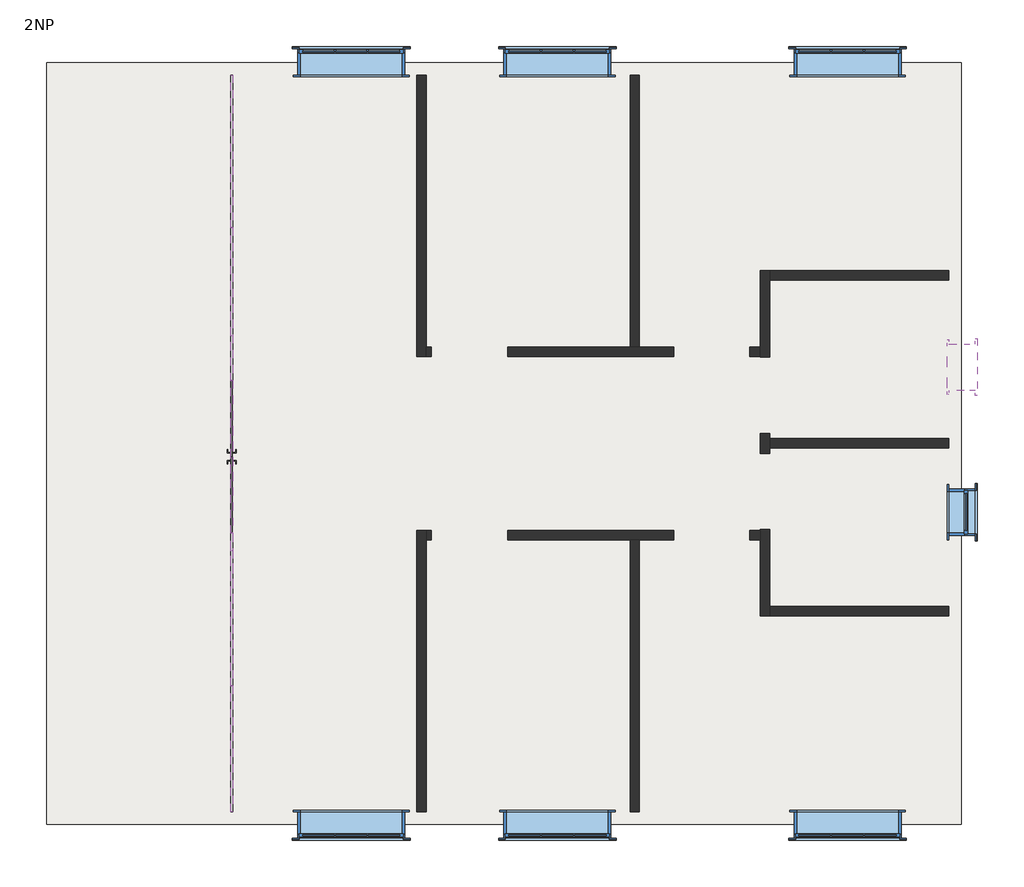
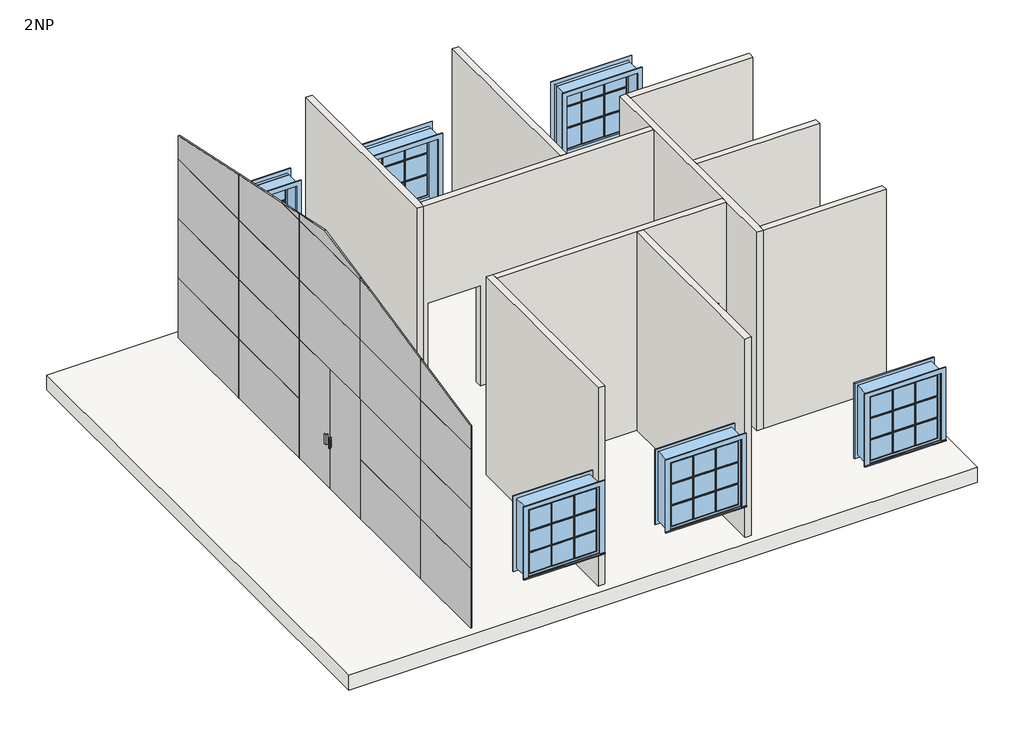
# One storey, incomplete: 22 plates, 10 walls, 8 windows, 1 slab.
"""IFC4 building model written with IfcOpenShell, lengths in millimetres."""

from ifc_helpers import new_model, si_unit, frame, origin, place, context, project, spatial, polyline, outline, extrude, faceted_brep, transform, mapped, element, save
from components import m_curtain_wall_dbl_glass_m_curtain_wall_dbl_glass_c5b9b46c, system_panel_glazed_d184565c, system_panel_glazed_a29ab13c, system_panel_glazed_8885a126, system_panel_glazed_2cf4602f, system_panel_glazed_9fd06ce3, system_panel_glazed_8aa4ee30, system_panel_glazed_09b1b49a, system_panel_glazed_e96e9fbf, system_panel_glazed_1f278f70, m_casement_3x3_with_trim_1100_x_1400_df31fcd5, m_casement_with_trim_0610_x_0610mm_632b6733

model = new_model("IFC4")

# Units and contexts
model_context = context("Model", 3, world=origin())
ifc_project = project(units=[si_unit("LENGTHUNIT", "METRE", prefix="MILLI")], contexts=[model_context])

# Site, building, storey
site = spatial("IfcSite", under=ifc_project)
building = spatial("IfcBuilding", under=site)
storey = spatial("IfcBuildingStorey", under=building, Name="2NP", Elevation=4000.0)

# Plates
placement = place(None, origin())
m_curtain_wall_dbl_glass_m_curtain_wall_dbl_glass_shape = m_curtain_wall_dbl_glass_m_curtain_wall_dbl_glass_c5b9b46c(model_context)
element("IfcPlate", 1, ObjectType="M_Curtain Wall Dbl Glass : M_Curtain Wall Dbl Glass", at=placement, inside=storey, context=model_context, shape_type="MappedRepresentation", body=[
    mapped(m_curtain_wall_dbl_glass_m_curtain_wall_dbl_glass_shape, transform((31926.5997597, 13660.2898989, 4000.0), x_axis=(0.0, -1.0, 0.0), y_axis=(1.0, 0.0, 0.0), z_axis=(0.0, 0.0, 1.0))),
])
system_panel_glazed_shape = system_panel_glazed_d184565c(model_context)
element("IfcPlate", 2, ObjectType="System Panel : Glazed", at=placement, inside=storey, context=model_context, shape_type="MappedRepresentation", body=[
    mapped(system_panel_glazed_shape, transform((31926.5997597, 17660.2898989, 4000.0), x_axis=(0.0, -1.0, 0.0), y_axis=(1.0, 0.0, 0.0), z_axis=(0.0, 0.0, 1.0))),
])
element("IfcPlate", 3, ObjectType="System Panel : Glazed", at=placement, inside=storey, context=model_context, shape_type="MappedRepresentation", body=[
    mapped(system_panel_glazed_shape, transform((31926.5997597, 15660.2898989, 4000.0), x_axis=(0.0, -1.0, 0.0), y_axis=(1.0, 0.0, 0.0), z_axis=(0.0, 0.0, 1.0))),
])
element("IfcPlate", 4, ObjectType="System Panel : Glazed", at=placement, inside=storey, context=model_context, shape_type="MappedRepresentation", body=[
    mapped(system_panel_glazed_shape, transform((31926.5997597, 11660.2898989, 4000.0), x_axis=(0.0, -1.0, 0.0), y_axis=(1.0, 0.0, 0.0), z_axis=(0.0, 0.0, 1.0))),
])
element("IfcPlate", 5, ObjectType="System Panel : Glazed", at=placement, inside=storey, context=model_context, shape_type="MappedRepresentation", body=[
    mapped(system_panel_glazed_shape, transform((31926.5997597, 17660.2898989, 5200.0), x_axis=(0.0, -1.0, 0.0), y_axis=(1.0, 0.0, 0.0), z_axis=(0.0, 0.0, 1.0))),
])
element("IfcPlate", 6, ObjectType="System Panel : Glazed", at=placement, inside=storey, context=model_context, shape_type="MappedRepresentation", body=[
    mapped(system_panel_glazed_shape, transform((31926.5997597, 15660.2898989, 5200.0), x_axis=(0.0, -1.0, 0.0), y_axis=(1.0, 0.0, 0.0), z_axis=(0.0, 0.0, 1.0))),
])
element("IfcPlate", 7, ObjectType="System Panel : Glazed", at=placement, inside=storey, context=model_context, shape_type="MappedRepresentation", body=[
    mapped(system_panel_glazed_shape, transform((31926.5997597, 11660.2898989, 5200.0), x_axis=(0.0, -1.0, 0.0), y_axis=(1.0, 0.0, 0.0), z_axis=(0.0, 0.0, 1.0))),
])
element("IfcPlate", 8, ObjectType="System Panel : Glazed", at=placement, inside=storey, context=model_context, shape_type="MappedRepresentation", body=[
    mapped(system_panel_glazed_shape, transform((31926.5997597, 17660.2898989, 6400.0), x_axis=(0.0, -1.0, 0.0), y_axis=(1.0, 0.0, 0.0), z_axis=(0.0, 0.0, 1.0))),
])
element("IfcPlate", 9, ObjectType="System Panel : Glazed", at=placement, inside=storey, context=model_context, shape_type="MappedRepresentation", body=[
    mapped(system_panel_glazed_shape, transform((31926.5997597, 15660.2898989, 6400.0), x_axis=(0.0, -1.0, 0.0), y_axis=(1.0, 0.0, 0.0), z_axis=(0.0, 0.0, 1.0))),
])
element("IfcPlate", 10, ObjectType="System Panel : Glazed", at=placement, inside=storey, context=model_context, shape_type="MappedRepresentation", body=[
    mapped(system_panel_glazed_shape, transform((31926.5997597, 13660.2898989, 6400.0), x_axis=(0.0, -1.0, 0.0), y_axis=(1.0, 0.0, 0.0), z_axis=(0.0, 0.0, 1.0))),
])
element("IfcPlate", 11, ObjectType="System Panel : Glazed", at=placement, inside=storey, context=model_context, shape_type="MappedRepresentation", body=[
    mapped(system_panel_glazed_shape, transform((31926.5997597, 11660.2898989, 6400.0), x_axis=(0.0, -1.0, 0.0), y_axis=(1.0, 0.0, 0.0), z_axis=(0.0, 0.0, 1.0))),
])
element("IfcPlate", 12, ObjectType="System Panel : Glazed", at=placement, inside=storey, context=model_context, shape_type="MappedRepresentation", body=[
    mapped(system_panel_glazed_shape, transform((31926.5997597, 13660.2898989, 7600.0), x_axis=(0.0, -1.0, 0.0), y_axis=(1.0, 0.0, 0.0), z_axis=(0.0, 0.0, 1.0))),
])
system_panel_glazed_2_shape = system_panel_glazed_a29ab13c(model_context)
element("IfcPlate", 13, ObjectType="System Panel : Glazed", at=placement, inside=storey, context=model_context, shape_type="MappedRepresentation", body=[
    mapped(system_panel_glazed_2_shape, transform((31926.5997597, 9835.2898989, 4000.0), x_axis=(0.0, -1.0, 0.0), y_axis=(1.0, 0.0, 0.0), z_axis=(0.0, 0.0, 1.0))),
])
element("IfcPlate", 14, ObjectType="System Panel : Glazed", at=placement, inside=storey, context=model_context, shape_type="MappedRepresentation", body=[
    mapped(system_panel_glazed_2_shape, transform((31926.5997597, 9835.2898989, 5200.0), x_axis=(0.0, -1.0, 0.0), y_axis=(1.0, 0.0, 0.0), z_axis=(0.0, 0.0, 1.0))),
])
element("IfcPlate", 15, ObjectType="System Panel : Glazed", at=placement, inside=storey, context=model_context, shape_type="MappedRepresentation", body=[
    mapped(system_panel_glazed_2_shape, transform((31926.5997597, 9835.2898989, 6400.0), x_axis=(0.0, -1.0, 0.0), y_axis=(1.0, 0.0, 0.0), z_axis=(0.0, 0.0, 1.0))),
])
system_panel_glazed_3_shape = system_panel_glazed_8885a126(model_context)
element("IfcPlate", 16, ObjectType="System Panel : Glazed", at=placement, inside=storey, context=model_context, shape_type="MappedRepresentation", body=[
    mapped(system_panel_glazed_3_shape, transform((31926.5997597, 17660.2898989, 7600.0), x_axis=(0.0, -1.0, 0.0), y_axis=(1.0, 0.0, 0.0), z_axis=(0.0, 0.0, 1.0))),
])
system_panel_glazed_4_shape = system_panel_glazed_2cf4602f(model_context)
element("IfcPlate", 17, ObjectType="System Panel : Glazed", at=placement, inside=storey, context=model_context, shape_type="MappedRepresentation", body=[
    mapped(system_panel_glazed_4_shape, transform((31926.5997597, 15660.2898989, 7600.0), x_axis=(0.0, -1.0, 0.0), y_axis=(1.0, 0.0, 0.0), z_axis=(0.0, 0.0, 1.0))),
])
system_panel_glazed_5_shape = system_panel_glazed_9fd06ce3(model_context)
element("IfcPlate", 18, ObjectType="System Panel : Glazed", at=placement, inside=storey, context=model_context, shape_type="MappedRepresentation", body=[
    mapped(system_panel_glazed_5_shape, transform((31926.5997597, 11660.2898989, 7600.0), x_axis=(0.0, -1.0, 0.0), y_axis=(1.0, 0.0, 0.0), z_axis=(0.0, 0.0, 1.0))),
])
system_panel_glazed_6_shape = system_panel_glazed_8aa4ee30(model_context)
element("IfcPlate", 19, ObjectType="System Panel : Glazed", at=placement, inside=storey, context=model_context, shape_type="MappedRepresentation", body=[
    mapped(system_panel_glazed_6_shape, transform((31926.5997597, 9835.2898989, 7600.0), x_axis=(0.0, -1.0, 0.0), y_axis=(1.0, 0.0, 0.0), z_axis=(0.0, 0.0, 1.0))),
])
system_panel_glazed_7_shape = system_panel_glazed_09b1b49a(model_context)
element("IfcPlate", 20, ObjectType="System Panel : Glazed", at=placement, inside=storey, context=model_context, shape_type="MappedRepresentation", body=[
    mapped(system_panel_glazed_7_shape, transform((31926.5997597, 14953.4378551, 8800.0), x_axis=(0.0, -1.0, 0.0), y_axis=(1.0, 0.0, 0.0), z_axis=(0.0, 0.0, 1.0))),
])
system_panel_glazed_8_shape = system_panel_glazed_e96e9fbf(model_context)
element("IfcPlate", 21, ObjectType="System Panel : Glazed", at=placement, inside=storey, context=model_context, shape_type="MappedRepresentation", body=[
    mapped(system_panel_glazed_8_shape, transform((31926.5997597, 13660.2898989, 8800.0), x_axis=(0.0, -1.0, 0.0), y_axis=(1.0, 0.0, 0.0), z_axis=(0.0, 0.0, 1.0))),
])
system_panel_glazed_9_shape = system_panel_glazed_1f278f70(model_context)
element("IfcPlate", 22, ObjectType="System Panel : Glazed", at=placement, inside=storey, context=model_context, shape_type="MappedRepresentation", body=[
    mapped(system_panel_glazed_9_shape, transform((31926.5997597, 12542.1419427, 8800.0), x_axis=(0.0, -1.0, 0.0), y_axis=(1.0, 0.0, 0.0), z_axis=(0.0, 0.0, 1.0))),
])

# Slab
element("IfcSlab", 23, ObjectType="Generic 300mm", at=placement, inside=storey, context=model_context, shape_type="SweptSolid", body=[
    extrude(outline(polyline([(29461.5997597, 18825.2898989), (41441.5997597, 18825.2898989), (41441.5997597, 8845.2898989), (29461.5997597, 8845.2898989), (29461.5997597, 18825.2898989)])), frame((0.0, 0.0, 3700.0), z_axis=(0.0, 0.0, 1.0), x_axis=(1.0, 0.0, 0.0)), (0.0, 0.0, 1.0), 300.0),
])

# Walls
element("IfcWall", 24, ObjectType="Interior - Blockwork 100", at=placement, inside=storey, context=model_context, shape_type="Brep", body=[
    faceted_brep([(34431.355701, 9010.2898989, 4000.0), (34431.355701, 12573.2898989, 4000.0), (34431.355701, 12697.2898989, 4000.0), (34431.355701, 12697.2898989, 8000.0), (34431.355701, 12573.2898989, 8000.0), (34431.355701, 9010.2898989, 8000.0), (34307.355701, 9010.2898989, 4000.0), (34307.355701, 9010.2898989, 8000.0), (34307.355701, 12697.2898989, 8000.0), (34307.355701, 12697.2898989, 4000.0)], [[[0, 1, 2, 3, 4, 5]], [[6, 7, 8, 9]], [[2, 1, 0, 6, 9]], [[5, 4, 3, 8, 7]], [[0, 5, 7, 6]], [[3, 2, 9, 8]]]),
])
element("IfcWall", 25, ObjectType="Interior - Blockwork 100", at=placement, inside=storey, context=model_context, shape_type="Brep", body=[
    faceted_brep([(35501.355701, 14973.2898989, 6020.0), (35501.355701, 14973.2898989, 4000.0), (37673.0559814, 14973.2898989, 4000.0), (37673.0559814, 14973.2898989, 6020.0), (38673.0559814, 14973.2898989, 6020.0), (38673.0559814, 14973.2898989, 4000.0), (38811.0559814, 14973.2898989, 4000.0), (38811.0559814, 14973.2898989, 8000.0), (34431.355701, 14973.2898989, 8000.0), (34431.355701, 14973.2898989, 4000.0), (34501.355701, 14973.2898989, 4000.0), (34501.355701, 14973.2898989, 6020.0), (37673.0559814, 15097.2898989, 4000.0), (37226.5997597, 15097.2898989, 4000.0), (37102.5997597, 15097.2898989, 4000.0), (35501.355701, 15097.2898989, 4000.0), (35501.355701, 15097.2898989, 6020.0), (34501.355701, 15097.2898989, 6020.0), (34501.355701, 15097.2898989, 4000.0), (34431.355701, 15097.2898989, 4000.0), (34431.355701, 15097.2898989, 8000.0), (37102.5997597, 15097.2898989, 8000.0), (37226.5997597, 15097.2898989, 8000.0), (38811.0559814, 15097.2898989, 8000.0), (38811.0559814, 15097.2898989, 4000.0), (38673.0559814, 15097.2898989, 4000.0), (38673.0559814, 15097.2898989, 6020.0), (37673.0559814, 15097.2898989, 6020.0)], [[[0, 1, 2, 3, 4, 5, 6, 7, 8, 9, 10, 11]], [[12, 13, 14, 15, 16, 17, 18, 19, 20, 21, 22, 23, 24, 25, 26, 27]], [[2, 1, 15, 14, 13, 12]], [[24, 6, 5, 25]], [[10, 9, 19, 18]], [[8, 7, 23, 22, 21, 20]], [[9, 8, 20, 19]], [[7, 6, 24, 23]], [[27, 3, 2, 12]], [[3, 27, 26, 4]], [[4, 26, 25, 5]], [[16, 15, 1, 0]], [[17, 16, 0, 11]], [[18, 17, 11, 10]]]),
])
element("IfcWall", 26, ObjectType="Interior - Blockwork 100", at=placement, inside=storey, context=model_context, shape_type="Brep", body=[
    faceted_brep([(35501.355701, 12573.2898989, 6020.0), (35501.355701, 12573.2898989, 4000.0), (37102.5997597, 12573.2898989, 4000.0), (37226.5997597, 12573.2898989, 4000.0), (37673.0559814, 12573.2898989, 4000.0), (37673.0559814, 12573.2898989, 6020.0), (38673.0559814, 12573.2898989, 6020.0), (38673.0559814, 12573.2898989, 4000.0), (38811.0559814, 12573.2898989, 4000.0), (38811.0559814, 12573.2898989, 8000.0), (37226.5997597, 12573.2898989, 8000.0), (37102.5997597, 12573.2898989, 8000.0), (34431.355701, 12573.2898989, 8000.0), (34431.355701, 12573.2898989, 4000.0), (34501.355701, 12573.2898989, 4000.0), (34501.355701, 12573.2898989, 6020.0), (37673.0559814, 12697.2898989, 4000.0), (35501.355701, 12697.2898989, 4000.0), (35501.355701, 12697.2898989, 6020.0), (34501.355701, 12697.2898989, 6020.0), (34501.355701, 12697.2898989, 4000.0), (34431.355701, 12697.2898989, 4000.0), (34431.355701, 12697.2898989, 8000.0), (38811.0559814, 12697.2898989, 8000.0), (38811.0559814, 12697.2898989, 4000.0), (38673.0559814, 12697.2898989, 4000.0), (38673.0559814, 12697.2898989, 6020.0), (37673.0559814, 12697.2898989, 6020.0)], [[[0, 1, 2, 3, 4, 5, 6, 7, 8, 9, 10, 11, 12, 13, 14, 15]], [[16, 17, 18, 19, 20, 21, 22, 23, 24, 25, 26, 27]], [[4, 3, 2, 1, 17, 16]], [[24, 8, 7, 25]], [[14, 13, 21, 20]], [[12, 11, 10, 9, 23, 22]], [[13, 12, 22, 21]], [[9, 8, 24, 23]], [[27, 5, 4, 16]], [[5, 27, 26, 6]], [[6, 26, 25, 7]], [[18, 17, 1, 0]], [[19, 18, 0, 15]], [[20, 19, 15, 14]]]),
])
element("IfcWall", 27, ObjectType="Interior - Blockwork 100", at=placement, inside=storey, context=model_context, shape_type="Brep", body=[
    faceted_brep([(38811.0559814, 12705.2898989, 6020.0), (38811.0559814, 12705.2898989, 4000.0), (38811.0559814, 12697.2898989, 4000.0), (38811.0559814, 12573.2898989, 4000.0), (38811.0559814, 11573.2898989, 4000.0), (38811.0559814, 11573.2898989, 8000.0), (38811.0559814, 12573.2898989, 8000.0), (38811.0559814, 12697.2898989, 8000.0), (38811.0559814, 14973.2898989, 8000.0), (38811.0559814, 15097.2898989, 8000.0), (38811.0559814, 16097.2898989, 8000.0), (38811.0559814, 16097.2898989, 4000.0), (38811.0559814, 15097.2898989, 4000.0), (38811.0559814, 14973.2898989, 4000.0), (38811.0559814, 14965.2898989, 4000.0), (38811.0559814, 14965.2898989, 6020.0), (38811.0559814, 13965.2898989, 6020.0), (38811.0559814, 13965.2898989, 4000.0), (38811.0559814, 13705.2898989, 4000.0), (38811.0559814, 13705.2898989, 6020.0), (38935.0559814, 11573.2898989, 4000.0), (38935.0559814, 11697.2898989, 4000.0), (38935.0559814, 12705.2898989, 4000.0), (38935.0559814, 12705.2898989, 6020.0), (38935.0559814, 13705.2898989, 6020.0), (38935.0559814, 13705.2898989, 4000.0), (38935.0559814, 13773.2898989, 4000.0), (38935.0559814, 13897.2898989, 4000.0), (38935.0559814, 13965.2898989, 4000.0), (38935.0559814, 13965.2898989, 6020.0), (38935.0559814, 14965.2898989, 6020.0), (38935.0559814, 14965.2898989, 4000.0), (38935.0559814, 15973.2898989, 4000.0), (38935.0559814, 16097.2898989, 4000.0), (38935.0559814, 16097.2898989, 8000.0), (38935.0559814, 15973.2898989, 8000.0), (38935.0559814, 13897.2898989, 8000.0), (38935.0559814, 13773.2898989, 8000.0), (38935.0559814, 11697.2898989, 8000.0), (38935.0559814, 11573.2898989, 8000.0)], [[[0, 1, 2, 3, 4, 5, 6, 7, 8, 9, 10, 11, 12, 13, 14, 15, 16, 17, 18, 19]], [[20, 21, 22, 23, 24, 25, 26, 27, 28, 29, 30, 31, 32, 33, 34, 35, 36, 37, 38, 39]], [[33, 32, 31, 14, 13, 12, 11]], [[4, 3, 2, 1, 22, 21, 20]], [[18, 17, 28, 27, 26, 25]], [[10, 9, 8, 7, 6, 5, 39, 38, 37, 36, 35, 34]], [[5, 4, 20, 39]], [[11, 10, 34, 33]], [[15, 14, 31, 30]], [[16, 15, 30, 29]], [[17, 16, 29, 28]], [[23, 22, 1, 0]], [[24, 23, 0, 19]], [[25, 24, 19, 18]]]),
])
element("IfcWall", 28, ObjectType="Interior - Blockwork 100", at=placement, inside=storey, context=model_context, shape_type="SweptSolid", body=[
    extrude(outline(polyline([(41276.5997597, 11573.2898989), (38935.0559814, 11573.2898989), (38935.0559814, 11697.2898989), (41276.5997597, 11697.2898989), (41276.5997597, 11573.2898989)])), frame((0.0, 0.0, 4000.0), z_axis=(0.0, 0.0, 1.0), x_axis=(1.0, 0.0, 0.0)), (0.0, 0.0, 1.0), 4000.0),
])
element("IfcWall", 29, ObjectType="Interior - Blockwork 100", at=placement, inside=storey, context=model_context, shape_type="SweptSolid", body=[
    extrude(outline(polyline([(41276.5997597, 15973.2898989), (38935.0559814, 15973.2898989), (38935.0559814, 16097.2898989), (41276.5997597, 16097.2898989), (41276.5997597, 15973.2898989)])), frame((0.0, 0.0, 4000.0), z_axis=(0.0, 0.0, 1.0), x_axis=(1.0, 0.0, 0.0)), (0.0, 0.0, 1.0), 4000.0),
])
element("IfcWall", 30, ObjectType="Interior - Blockwork 100", at=placement, inside=storey, context=model_context, shape_type="SweptSolid", body=[
    extrude(outline(polyline([(37102.5997597, 15097.2898989), (37102.5997597, 18660.2898989), (37226.5997597, 18660.2898989), (37226.5997597, 15097.2898989), (37102.5997597, 15097.2898989)])), frame((0.0, 0.0, 4000.0), z_axis=(0.0, 0.0, 1.0), x_axis=(1.0, 0.0, 0.0)), (0.0, 0.0, 1.0), 4000.0),
])
element("IfcWall", 31, ObjectType="Interior - Blockwork 100", at=placement, inside=storey, context=model_context, shape_type="SweptSolid", body=[
    extrude(outline(polyline([(37102.5997597, 9010.2898989), (37102.5997597, 12573.2898989), (37226.5997597, 12573.2898989), (37226.5997597, 9010.2898989), (37102.5997597, 9010.2898989)])), frame((0.0, 0.0, 4000.0), z_axis=(0.0, 0.0, 1.0), x_axis=(1.0, 0.0, 0.0)), (0.0, 0.0, 1.0), 4000.0),
])
element("IfcWall", 32, ObjectType="Interior - Blockwork 100", at=placement, inside=storey, context=model_context, shape_type="Brep", body=[
    faceted_brep([(34431.355701, 14973.2898989, 4000.0), (34431.355701, 15097.2898989, 4000.0), (34431.355701, 18660.2898989, 4000.0), (34431.355701, 18660.2898989, 8000.0), (34431.355701, 15097.2898989, 8000.0), (34431.355701, 14973.2898989, 8000.0), (34307.355701, 14973.2898989, 4000.0), (34307.355701, 14973.2898989, 8000.0), (34307.355701, 18660.2898989, 8000.0), (34307.355701, 18660.2898989, 4000.0)], [[[0, 1, 2, 3, 4, 5]], [[6, 7, 8, 9]], [[2, 1, 0, 6, 9]], [[5, 4, 3, 8, 7]], [[0, 5, 7, 6]], [[3, 2, 9, 8]]]),
])
element("IfcWall", 33, ObjectType="Interior - Blockwork 100", at=placement, inside=storey, context=model_context, shape_type="SweptSolid", body=[
    extrude(outline(polyline([(41276.5997597, 13773.2898989), (38935.0559814, 13773.2898989), (38935.0559814, 13897.2898989), (41276.5997597, 13897.2898989), (41276.5997597, 13773.2898989)])), frame((0.0, 0.0, 4000.0), z_axis=(0.0, 0.0, 1.0), x_axis=(1.0, 0.0, 0.0)), (0.0, 0.0, 1.0), 4000.0),
])

# Windows
m_casement_3x3_with_trim_1100_x_1400_shape = m_casement_3x3_with_trim_1100_x_1400_df31fcd5(model_context)
element("IfcWindow", 34, ObjectType="M_Casement 3x3 with Trim : 1100 x 1400", at=placement, inside=storey, context=model_context, shape_type="MappedRepresentation", body=[
    mapped(m_casement_3x3_with_trim_1100_x_1400_shape, transform((33451.5997597, 18835.2898989, 4000.0), x_axis=(1.0, 0.0, 0.0), y_axis=(0.0, 1.0, 0.0), z_axis=(0.0, 0.0, 1.0))),
])
element("IfcWindow", 35, ObjectType="M_Casement 3x3 with Trim : 1100 x 1400", at=placement, inside=storey, context=model_context, shape_type="MappedRepresentation", body=[
    mapped(m_casement_3x3_with_trim_1100_x_1400_shape, transform((36151.5997597, 18835.2898989, 4000.0), x_axis=(1.0, 0.0, 0.0), y_axis=(0.0, 1.0, 0.0), z_axis=(0.0, 0.0, 1.0))),
])
element("IfcWindow", 36, ObjectType="M_Casement 3x3 with Trim : 1100 x 1400", at=placement, inside=storey, context=model_context, shape_type="MappedRepresentation", body=[
    mapped(m_casement_3x3_with_trim_1100_x_1400_shape, transform((39951.5997597, 18835.2898989, 4000.0), x_axis=(1.0, 0.0, 0.0), y_axis=(0.0, 1.0, 0.0), z_axis=(0.0, 0.0, 1.0))),
])
element("IfcWindow", 37, ObjectType="M_Casement 3x3 with Trim : 1100 x 1400", at=placement, inside=storey, context=model_context, shape_type="MappedRepresentation", body=[
    mapped(m_casement_3x3_with_trim_1100_x_1400_shape, transform((39951.5997597, 8835.2898989, 4000.0), x_axis=(-1.0, 0.0, 0.0), y_axis=(0.0, -1.0, 0.0), z_axis=(0.0, 0.0, 1.0))),
])
element("IfcWindow", 38, ObjectType="M_Casement 3x3 with Trim : 1100 x 1400", at=placement, inside=storey, context=model_context, shape_type="MappedRepresentation", body=[
    mapped(m_casement_3x3_with_trim_1100_x_1400_shape, transform((36151.5997597, 8835.2898989, 4000.0), x_axis=(-1.0, 0.0, 0.0), y_axis=(0.0, -1.0, 0.0), z_axis=(0.0, 0.0, 1.0))),
])
element("IfcWindow", 39, ObjectType="M_Casement 3x3 with Trim : 1100 x 1400", at=placement, inside=storey, context=model_context, shape_type="MappedRepresentation", body=[
    mapped(m_casement_3x3_with_trim_1100_x_1400_shape, transform((33451.5997597, 8835.2898989, 4000.0), x_axis=(-1.0, 0.0, 0.0), y_axis=(0.0, -1.0, 0.0), z_axis=(0.0, 0.0, 1.0))),
])
m_casement_with_trim_0610_x_0610mm_shape = m_casement_with_trim_0610_x_0610mm_632b6733(model_context)
element("IfcWindow", 40, ObjectType="M_Casement with Trim : 0610 x 0610mm", at=placement, inside=storey, context=model_context, shape_type="MappedRepresentation", body=[
    mapped(m_casement_with_trim_0610_x_0610mm_shape, transform((41451.5997597, 14835.2898989, 4790.0), x_axis=(0.0, -1.0, 0.0), y_axis=(1.0, 0.0, 0.0), z_axis=(0.0, 0.0, 1.0))),
])
element("IfcWindow", 41, ObjectType="M_Casement with Trim : 0610 x 0610mm", at=placement, inside=storey, context=model_context, shape_type="MappedRepresentation", body=[
    mapped(m_casement_with_trim_0610_x_0610mm_shape, transform((41451.5997597, 12935.2898989, 4000.0), x_axis=(0.0, -1.0, 0.0), y_axis=(1.0, 0.0, 0.0), z_axis=(0.0, 0.0, 1.0))),
])

save(model, "model.ifc")
